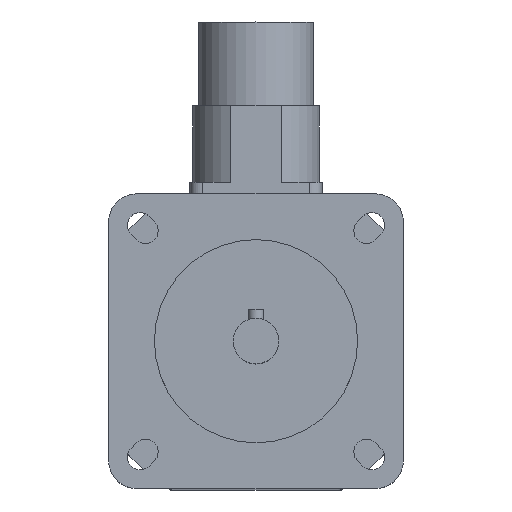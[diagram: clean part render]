
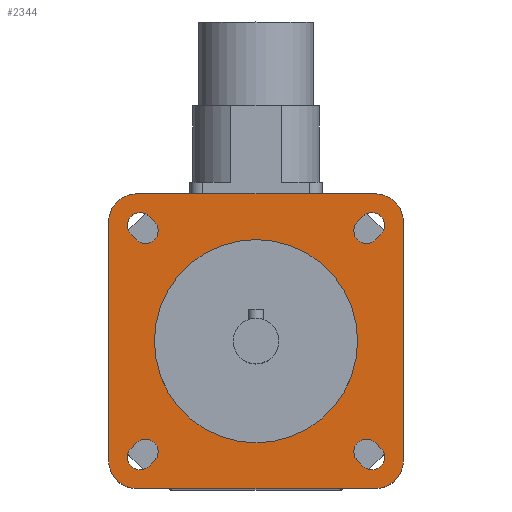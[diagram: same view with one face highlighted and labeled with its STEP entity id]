
A CAD part, top view. The second image highlights one B-rep face of the part: STEP entity #2344.
In plain terms, the highlighted planar face has unit normal (0, 0, 1).
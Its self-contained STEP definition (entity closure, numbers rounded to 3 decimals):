
#28=FACE_BOUND('',#421,.T.);
#29=FACE_BOUND('',#422,.T.);
#30=FACE_BOUND('',#423,.T.);
#31=FACE_BOUND('',#424,.T.);
#32=FACE_BOUND('',#425,.T.);
#46=CIRCLE('',#2435,20.);
#83=CIRCLE('',#2499,2.5);
#87=CIRCLE('',#2506,2.5);
#88=CIRCLE('',#2509,2.5);
#89=CIRCLE('',#2512,2.5);
#99=CIRCLE('',#2527,2.5);
#100=CIRCLE('',#2530,2.5);
#101=CIRCLE('',#2533,2.5);
#102=CIRCLE('',#2536,2.5);
#103=CIRCLE('',#2538,5.5);
#104=CIRCLE('',#2540,5.5);
#105=CIRCLE('',#2542,5.5);
#106=CIRCLE('',#2544,5.5);
#281=FACE_OUTER_BOUND('',#420,.T.);
#420=EDGE_LOOP('',(#1806,#1807,#1808,#1809,#1810,#1811,#1812,#1813));
#421=EDGE_LOOP('',(#1814));
#422=EDGE_LOOP('',(#1815,#1816,#1817,#1818));
#423=EDGE_LOOP('',(#1819,#1820,#1821,#1822));
#424=EDGE_LOOP('',(#1823,#1824,#1825,#1826));
#425=EDGE_LOOP('',(#1827,#1828,#1829,#1830));
#564=LINE('',#3642,#783);
#572=LINE('',#3666,#791);
#576=LINE('',#3676,#795);
#580=LINE('',#3686,#799);
#596=LINE('',#3737,#815);
#598=LINE('',#3743,#817);
#600=LINE('',#3749,#819);
#602=LINE('',#3755,#821);
#611=LINE('',#3783,#830);
#612=LINE('',#3784,#831);
#613=LINE('',#3785,#832);
#614=LINE('',#3786,#833);
#783=VECTOR('',#2885,1.5);
#791=VECTOR('',#2907,1.5);
#795=VECTOR('',#2917,1.5);
#799=VECTOR('',#2927,1.5);
#815=VECTOR('',#2973,1.5);
#817=VECTOR('',#2981,1.5);
#819=VECTOR('',#2989,1.5);
#821=VECTOR('',#2997,1.5);
#830=VECTOR('',#3028,47.);
#831=VECTOR('',#3029,47.);
#832=VECTOR('',#3030,47.);
#833=VECTOR('',#3031,47.);
#956=VERTEX_POINT('',#3463);
#1021=VERTEX_POINT('',#3639);
#1022=VERTEX_POINT('',#3641);
#1023=VERTEX_POINT('',#3645);
#1030=VERTEX_POINT('',#3663);
#1031=VERTEX_POINT('',#3665);
#1032=VERTEX_POINT('',#3669);
#1033=VERTEX_POINT('',#3673);
#1034=VERTEX_POINT('',#3675);
#1035=VERTEX_POINT('',#3679);
#1036=VERTEX_POINT('',#3683);
#1037=VERTEX_POINT('',#3685);
#1038=VERTEX_POINT('',#3689);
#1057=VERTEX_POINT('',#3735);
#1058=VERTEX_POINT('',#3741);
#1059=VERTEX_POINT('',#3747);
#1060=VERTEX_POINT('',#3753);
#1061=VERTEX_POINT('',#3759);
#1062=VERTEX_POINT('',#3761);
#1063=VERTEX_POINT('',#3765);
#1064=VERTEX_POINT('',#3767);
#1065=VERTEX_POINT('',#3771);
#1066=VERTEX_POINT('',#3773);
#1067=VERTEX_POINT('',#3777);
#1068=VERTEX_POINT('',#3779);
#1190=EDGE_CURVE('',#956,#956,#46,.T.);
#1276=EDGE_CURVE('',#1022,#1021,#564,.T.);
#1279=EDGE_CURVE('',#1021,#1023,#83,.T.);
#1288=EDGE_CURVE('',#1031,#1030,#572,.T.);
#1291=EDGE_CURVE('',#1030,#1032,#87,.T.);
#1293=EDGE_CURVE('',#1034,#1033,#576,.T.);
#1296=EDGE_CURVE('',#1033,#1035,#88,.T.);
#1298=EDGE_CURVE('',#1037,#1036,#580,.T.);
#1301=EDGE_CURVE('',#1036,#1038,#89,.T.);
#1324=EDGE_CURVE('',#1035,#1057,#596,.T.);
#1325=EDGE_CURVE('',#1057,#1034,#99,.T.);
#1327=EDGE_CURVE('',#1032,#1058,#598,.T.);
#1328=EDGE_CURVE('',#1058,#1031,#100,.T.);
#1330=EDGE_CURVE('',#1038,#1059,#600,.T.);
#1331=EDGE_CURVE('',#1059,#1037,#101,.T.);
#1333=EDGE_CURVE('',#1023,#1060,#602,.T.);
#1334=EDGE_CURVE('',#1060,#1022,#102,.T.);
#1336=EDGE_CURVE('',#1062,#1061,#103,.T.);
#1339=EDGE_CURVE('',#1064,#1063,#104,.T.);
#1342=EDGE_CURVE('',#1066,#1065,#105,.T.);
#1345=EDGE_CURVE('',#1068,#1067,#106,.T.);
#1347=EDGE_CURVE('',#1061,#1068,#611,.T.);
#1348=EDGE_CURVE('',#1067,#1066,#612,.T.);
#1349=EDGE_CURVE('',#1065,#1064,#613,.T.);
#1350=EDGE_CURVE('',#1063,#1062,#614,.T.);
#1806=ORIENTED_EDGE('',*,*,#1347,.T.);
#1807=ORIENTED_EDGE('',*,*,#1345,.T.);
#1808=ORIENTED_EDGE('',*,*,#1348,.T.);
#1809=ORIENTED_EDGE('',*,*,#1342,.T.);
#1810=ORIENTED_EDGE('',*,*,#1349,.T.);
#1811=ORIENTED_EDGE('',*,*,#1339,.T.);
#1812=ORIENTED_EDGE('',*,*,#1350,.T.);
#1813=ORIENTED_EDGE('',*,*,#1336,.T.);
#1814=ORIENTED_EDGE('',*,*,#1190,.T.);
#1815=ORIENTED_EDGE('',*,*,#1324,.T.);
#1816=ORIENTED_EDGE('',*,*,#1325,.T.);
#1817=ORIENTED_EDGE('',*,*,#1293,.T.);
#1818=ORIENTED_EDGE('',*,*,#1296,.T.);
#1819=ORIENTED_EDGE('',*,*,#1327,.T.);
#1820=ORIENTED_EDGE('',*,*,#1328,.T.);
#1821=ORIENTED_EDGE('',*,*,#1288,.T.);
#1822=ORIENTED_EDGE('',*,*,#1291,.T.);
#1823=ORIENTED_EDGE('',*,*,#1330,.T.);
#1824=ORIENTED_EDGE('',*,*,#1331,.T.);
#1825=ORIENTED_EDGE('',*,*,#1298,.T.);
#1826=ORIENTED_EDGE('',*,*,#1301,.T.);
#1827=ORIENTED_EDGE('',*,*,#1333,.T.);
#1828=ORIENTED_EDGE('',*,*,#1334,.T.);
#1829=ORIENTED_EDGE('',*,*,#1276,.T.);
#1830=ORIENTED_EDGE('',*,*,#1279,.T.);
#2248=PLANE('',#2545);
#2344=ADVANCED_FACE('',(#281,#28,#29,#30,#31,#32),#2248,.T.);
#2435=AXIS2_PLACEMENT_3D('',#3464,#2710,#2711);
#2499=AXIS2_PLACEMENT_3D('',#3647,#2890,#2891);
#2506=AXIS2_PLACEMENT_3D('',#3671,#2912,#2913);
#2509=AXIS2_PLACEMENT_3D('',#3681,#2922,#2923);
#2512=AXIS2_PLACEMENT_3D('',#3691,#2932,#2933);
#2527=AXIS2_PLACEMENT_3D('',#3739,#2976,#2977);
#2530=AXIS2_PLACEMENT_3D('',#3745,#2984,#2985);
#2533=AXIS2_PLACEMENT_3D('',#3751,#2992,#2993);
#2536=AXIS2_PLACEMENT_3D('',#3757,#3000,#3001);
#2538=AXIS2_PLACEMENT_3D('',#3762,#3005,#3006);
#2540=AXIS2_PLACEMENT_3D('',#3768,#3011,#3012);
#2542=AXIS2_PLACEMENT_3D('',#3774,#3017,#3018);
#2544=AXIS2_PLACEMENT_3D('',#3780,#3023,#3024);
#2545=AXIS2_PLACEMENT_3D('',#3782,#3026,#3027);
#2710=DIRECTION('center_axis',(0.,0.,-1.));
#2711=DIRECTION('ref_axis',(-1.,0.,0.));
#2885=DIRECTION('',(-0.707,-0.707,0.));
#2890=DIRECTION('center_axis',(0.,0.,-1.));
#2891=DIRECTION('ref_axis',(0.707,-0.707,0.));
#2907=DIRECTION('',(-0.707,0.707,0.));
#2912=DIRECTION('center_axis',(0.,0.,-1.));
#2913=DIRECTION('ref_axis',(-0.707,-0.707,0.));
#2917=DIRECTION('',(-0.707,-0.707,0.));
#2922=DIRECTION('center_axis',(0.,0.,-1.));
#2923=DIRECTION('ref_axis',(0.707,-0.707,0.));
#2927=DIRECTION('',(-0.707,0.707,0.));
#2932=DIRECTION('center_axis',(0.,0.,-1.));
#2933=DIRECTION('ref_axis',(-0.707,-0.707,0.));
#2973=DIRECTION('',(0.707,0.707,0.));
#2976=DIRECTION('center_axis',(0.,0.,-1.));
#2977=DIRECTION('ref_axis',(-0.707,0.707,0.));
#2981=DIRECTION('',(0.707,-0.707,0.));
#2984=DIRECTION('center_axis',(0.,0.,-1.));
#2985=DIRECTION('ref_axis',(0.707,0.707,0.));
#2989=DIRECTION('',(0.707,-0.707,0.));
#2992=DIRECTION('center_axis',(0.,0.,-1.));
#2993=DIRECTION('ref_axis',(0.707,0.707,0.));
#2997=DIRECTION('',(0.707,0.707,0.));
#3000=DIRECTION('center_axis',(0.,0.,-1.));
#3001=DIRECTION('ref_axis',(-0.707,0.707,0.));
#3005=DIRECTION('center_axis',(0.,0.,1.));
#3006=DIRECTION('ref_axis',(1.,0.,0.));
#3011=DIRECTION('center_axis',(0.,0.,1.));
#3012=DIRECTION('ref_axis',(0.,-1.,0.));
#3017=DIRECTION('center_axis',(0.,0.,1.));
#3018=DIRECTION('ref_axis',(-1.,0.,0.));
#3023=DIRECTION('center_axis',(0.,0.,1.));
#3024=DIRECTION('ref_axis',(0.,1.,0.));
#3026=DIRECTION('center_axis',(0.,0.,1.));
#3027=DIRECTION('ref_axis',(1.,0.,0.));
#3028=DIRECTION('',(-1.,0.,0.));
#3029=DIRECTION('',(0.,-1.,0.));
#3030=DIRECTION('',(1.,0.,0.));
#3031=DIRECTION('',(0.,1.,0.));
#3463=CARTESIAN_POINT('',(20.,0.,142.));
#3464=CARTESIAN_POINT('Origin',(0.,0.,142.));
#3639=CARTESIAN_POINT('',(-21.036,-24.572,142.));
#3641=CARTESIAN_POINT('',(-19.976,-23.511,142.));
#3642=CARTESIAN_POINT('',(-9.634,-13.17,142.));
#3645=CARTESIAN_POINT('',(-24.572,-21.036,142.));
#3647=CARTESIAN_POINT('Origin',(-22.804,-22.804,142.));
#3663=CARTESIAN_POINT('',(-24.572,21.036,142.));
#3665=CARTESIAN_POINT('',(-23.511,19.976,142.));
#3666=CARTESIAN_POINT('',(-13.17,9.634,142.));
#3669=CARTESIAN_POINT('',(-21.036,24.572,142.));
#3671=CARTESIAN_POINT('Origin',(-22.804,22.804,142.));
#3673=CARTESIAN_POINT('',(23.511,19.976,142.));
#3675=CARTESIAN_POINT('',(24.572,21.036,142.));
#3676=CARTESIAN_POINT('',(12.64,9.104,142.));
#3679=CARTESIAN_POINT('',(19.976,23.511,142.));
#3681=CARTESIAN_POINT('Origin',(21.744,21.744,142.));
#3683=CARTESIAN_POINT('',(19.976,-23.511,142.));
#3685=CARTESIAN_POINT('',(21.036,-24.572,142.));
#3686=CARTESIAN_POINT('',(9.104,-12.64,142.));
#3689=CARTESIAN_POINT('',(23.511,-19.976,142.));
#3691=CARTESIAN_POINT('Origin',(21.744,-21.744,142.));
#3735=CARTESIAN_POINT('',(21.036,24.572,142.));
#3737=CARTESIAN_POINT('',(9.634,13.17,142.));
#3739=CARTESIAN_POINT('Origin',(22.804,22.804,142.));
#3741=CARTESIAN_POINT('',(-19.976,23.511,142.));
#3743=CARTESIAN_POINT('',(-9.104,12.64,142.));
#3745=CARTESIAN_POINT('Origin',(-21.744,21.744,142.));
#3747=CARTESIAN_POINT('',(24.572,-21.036,142.));
#3749=CARTESIAN_POINT('',(13.17,-9.634,142.));
#3751=CARTESIAN_POINT('Origin',(22.804,-22.804,142.));
#3753=CARTESIAN_POINT('',(-23.511,-19.976,142.));
#3755=CARTESIAN_POINT('',(-12.64,-9.104,142.));
#3757=CARTESIAN_POINT('Origin',(-21.744,-21.744,142.));
#3759=CARTESIAN_POINT('',(23.5,29.,142.));
#3761=CARTESIAN_POINT('',(29.,23.5,142.));
#3762=CARTESIAN_POINT('Origin',(23.5,23.5,142.));
#3765=CARTESIAN_POINT('',(29.,-23.5,142.));
#3767=CARTESIAN_POINT('',(23.5,-29.,142.));
#3768=CARTESIAN_POINT('Origin',(23.5,-23.5,142.));
#3771=CARTESIAN_POINT('',(-23.5,-29.,142.));
#3773=CARTESIAN_POINT('',(-29.,-23.5,142.));
#3774=CARTESIAN_POINT('Origin',(-23.5,-23.5,142.));
#3777=CARTESIAN_POINT('',(-29.,23.5,142.));
#3779=CARTESIAN_POINT('',(-23.5,29.,142.));
#3780=CARTESIAN_POINT('Origin',(-23.5,23.5,142.));
#3782=CARTESIAN_POINT('Origin',(0.,0.,
142.));
#3783=CARTESIAN_POINT('',(23.5,29.,142.));
#3784=CARTESIAN_POINT('',(-29.,23.5,142.));
#3785=CARTESIAN_POINT('',(-23.5,-29.,142.));
#3786=CARTESIAN_POINT('',(29.,-23.5,142.));
